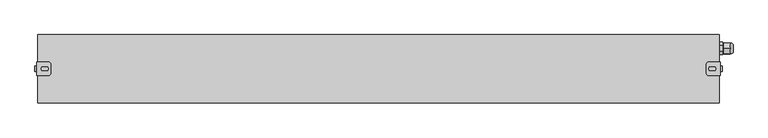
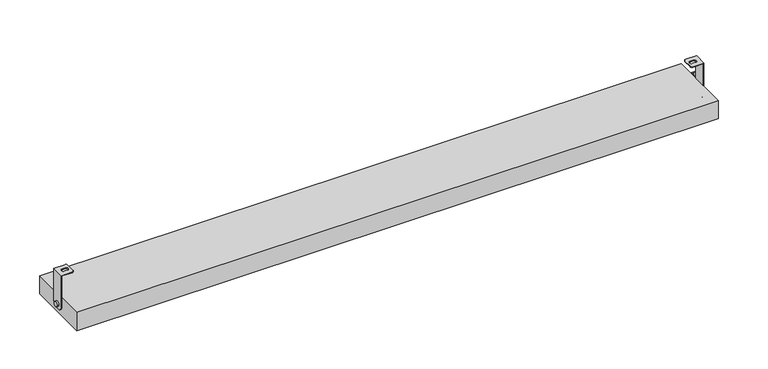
"""IFC4 building model written with IfcOpenShell, lengths in millimetres: light fixture geometry, GENILED_Светильник светодиодный_Titan Advanced : Titan Advanced 1000x100x30 40Вт IP66 Матовое закаленное стекло."""

import ifcopenshell
import ifcopenshell.guid

model = None  # the IFC model being written
_history = None  # IfcOwnerHistory: only IFC2X3 demands one
_inside = {}  # id of a spatial element -> (the spatial element, [elements in it])
_under = {}  # id of a project, library or spatial element -> (it, [spatial elements below it])
_declared = {}  # id of a project -> (the project, [libraries it declares])
_typed = {}  # id of a type object -> (the type object, [elements of that type])
_made_of = {}  # id of a material, layer set ... -> (it, [elements and type objects made of it])


def new_model(schema):
    """Start an empty IFC model of exactly this schema.

    Asked for "IFC4X3", IfcOpenShell would pick the latest addendum, in which some entities
    have other attributes; the version numbers below select the first issue.
    IFC2X3 requires an IfcOwnerHistory on every rooted entity: one is made here for all.
    """
    global model, _history
    if schema == "IFC4X3":
        model = ifcopenshell.file(schema_version=(4, 3, 0, 0))
    else:
        model = ifcopenshell.file(schema=schema)
    _inside.clear()
    _under.clear()
    _declared.clear()
    _typed.clear()
    _made_of.clear()
    _history = None
    if model.schema == "IFC2X3":
        org = make("IfcOrganization", Name="unknown")
        user = make(
            "IfcPersonAndOrganization",
            ThePerson=make("IfcPerson", FamilyName="unknown"),
            TheOrganization=org,
        )
        app = make(
            "IfcApplication",
            ApplicationDeveloper=org,
            Version="unknown",
            ApplicationFullName="unknown",
            ApplicationIdentifier="unknown",
        )
        _history = make(
            "IfcOwnerHistory",
            OwningUser=user,
            OwningApplication=app,
            ChangeAction="ADDED",
            CreationDate=0,
        )
    return model


def make(cls, **values):
    """One entity of the class cls with the attributes given. An attribute that is None is left unset."""
    return model.create_entity(
        cls, **{name: value for name, value in values.items() if value is not None}
    )


def rooted(cls, **values):
    """An entity with a GlobalId (a new one), such as an element, a storey or a relation."""
    return make(cls, GlobalId=ifcopenshell.guid.new(), OwnerHistory=_history, **values)


def si_unit(unit_type, name, prefix=None):
    """IfcSIUnit, for example si_unit("LENGTHUNIT", "METRE", prefix="MILLI")."""
    return make("IfcSIUnit", UnitType=unit_type, Prefix=prefix, Name=name)


def assignment(units):
    """IfcUnitAssignment: the units of a project."""
    return None if units is None else make("IfcUnitAssignment", Units=units)


def point(xyz):
    """IfcCartesianPoint."""
    return None if xyz is None else make("IfcCartesianPoint", Coordinates=xyz)


def direction(xyz):
    """IfcDirection."""
    return None if xyz is None else make("IfcDirection", DirectionRatios=xyz)


def frame(location, z_axis=None, x_axis=None):
    """IfcAxis2Placement3D, a coordinate frame: its origin and axes. An axis left out is left unset."""
    return make(
        "IfcAxis2Placement3D",
        Location=point(location),
        Axis=direction(z_axis),
        RefDirection=direction(x_axis),
    )


def frame_2d(location, x_axis=None):
    """IfcAxis2Placement2D, a coordinate frame in the plane: its origin and x axis."""
    return make(
        "IfcAxis2Placement2D", Location=point(location), RefDirection=direction(x_axis)
    )


def origin():
    """The frame at (0, 0, 0) with its axes left unset."""
    return frame((0.0, 0.0, 0.0))


def origin_with_axes():
    """The frame at (0, 0, 0) with the z axis (0, 0, 1) and the x axis (1, 0, 0) written out."""
    return frame((0.0, 0.0, 0.0), z_axis=(0.0, 0.0, 1.0), x_axis=(1.0, 0.0, 0.0))


def place(relative_to, where):
    """IfcLocalPlacement: puts the frame where relative to a parent placement (None: the world)."""
    return make(
        "IfcLocalPlacement", PlacementRelTo=relative_to, RelativePlacement=where
    )


def context(
    kind, dimensions, precision=None, world=None, true_north=None, identifier=None
):
    """IfcGeometricRepresentationContext, for example the 3D "Model" context."""
    return make(
        "IfcGeometricRepresentationContext",
        ContextIdentifier=identifier,
        ContextType=kind,
        CoordinateSpaceDimension=dimensions,
        Precision=precision,
        WorldCoordinateSystem=world,
        TrueNorth=true_north,
    )


def project(units=None, contexts=None):
    """IfcProject with its units and contexts."""
    return rooted(
        "IfcProject",
        Name="project",
        RepresentationContexts=contexts,
        UnitsInContext=assignment(units),
    )


def spatial(cls, under=None, at=None, **own):
    """A site, building, storey or space (cls), placed at a placement, below another one or the project."""
    s = rooted(cls, ObjectPlacement=at, **own)
    if under is not None:
        _under.setdefault(under.id(), (under, []))[1].append(s)
    return s


def polyline(points):
    """IfcPolyline through the points."""
    return make("IfcPolyline", Points=[point(p) for p in points])


def circle_curve(where, radius):
    """IfcCircle in the frame where."""
    return make("IfcCircle", Position=where, Radius=radius)


def ellipse_curve(where, semi_axis1, semi_axis2):
    """IfcEllipse in the frame where."""
    return make(
        "IfcEllipse", Position=where, SemiAxis1=semi_axis1, SemiAxis2=semi_axis2
    )


def trimmed(basis, trim1, trim2, sense, master):
    """IfcTrimmedCurve: the piece of a basis curve between two trims."""
    return make(
        "IfcTrimmedCurve",
        BasisCurve=basis,
        Trim1=trim1,
        Trim2=trim2,
        SenseAgreement=sense,
        MasterRepresentation=master,
    )


def segment(curve, same_sense, transition):
    """IfcCompositeCurveSegment."""
    return make(
        "IfcCompositeCurveSegment",
        Transition=transition,
        SameSense=same_sense,
        ParentCurve=curve,
    )


def composite_curve(segments, self_intersect=None):
    """IfcCompositeCurve: segments joined end to end."""
    return make("IfcCompositeCurve", Segments=segments, SelfIntersect=self_intersect)


def outline(outer, holes=None, kind="AREA"):
    """IfcArbitraryClosedProfileDef: a profile drawn as a closed curve; with holes, ...WithVoids."""
    if holes is None:
        return make("IfcArbitraryClosedProfileDef", ProfileType=kind, OuterCurve=outer)
    return make(
        "IfcArbitraryProfileDefWithVoids",
        ProfileType=kind,
        OuterCurve=outer,
        InnerCurves=holes,
    )


def extrude(swept, where, along, depth):
    """IfcExtrudedAreaSolid: the profile swept, set in the frame where, extruded along a direction by depth."""
    return make(
        "IfcExtrudedAreaSolid",
        SweptArea=swept,
        Position=where,
        ExtrudedDirection=direction(along),
        Depth=depth,
    )


def shape(context_of_items, identifier, shape_type, items):
    """IfcShapeRepresentation: the items that make up one representation, for example the "Body"."""
    return make(
        "IfcShapeRepresentation",
        ContextOfItems=context_of_items,
        RepresentationIdentifier=identifier,
        RepresentationType=shape_type,
        Items=items,
    )


def source(mapping_origin, context_of_items, identifier, shape_type, items):
    """IfcRepresentationMap: a shape defined once, which mapped items show again and again."""
    return make(
        "IfcRepresentationMap",
        MappingOrigin=mapping_origin,
        MappedRepresentation=shape(context_of_items, identifier, shape_type, items),
    )


def transform(
    local_origin,
    x_axis=None,
    y_axis=None,
    z_axis=None,
    scale=None,
    scale2=None,
    scale3=None,
    uniform=True,
):
    """IfcCartesianTransformationOperator3D, or its non-uniform kind. x_axis, y_axis, z_axis: its Axis1, 2, 3."""
    if uniform:
        return make(
            "IfcCartesianTransformationOperator3D",
            Axis1=direction(x_axis),
            Axis2=direction(y_axis),
            LocalOrigin=point(local_origin),
            Scale=scale,
            Axis3=direction(z_axis),
        )
    return make(
        "IfcCartesianTransformationOperator3DnonUniform",
        Axis1=direction(x_axis),
        Axis2=direction(y_axis),
        LocalOrigin=point(local_origin),
        Scale=scale,
        Axis3=direction(z_axis),
        Scale2=scale2,
        Scale3=scale3,
    )


def mapped(mapping_source, mapping_target):
    """IfcMappedItem: shows the shape of a source again, moved by a transform."""
    return make(
        "IfcMappedItem", MappingSource=mapping_source, MappingTarget=mapping_target
    )


def made_of(thing, what):
    """Note that an element or type object is made of a material, layer set ...; save() writes the relation."""
    if what is not None:
        _made_of.setdefault(what.id(), (what, []))[1].append(thing)
    return thing


def element(
    cls,
    number,
    at=None,
    inside=None,
    cuts=None,
    type_object=None,
    material=None,
    context=None,
    identifier="Body",
    shape_type=None,
    held_by="IfcProductDefinitionShape",
    body=None,
    shapes=None,
    **own,
):
    """One element of the class cls, such as IfcWall. Its Tag is "e" and its number.

    at: its placement. inside: the storey or other place that contains it. cuts: it is an
    opening in that element (IfcRelVoidsElement). A single representation is given by context,
    identifier, shape_type and body (its items); several are given by shapes. held_by: the class
    of the entity that holds the representations. save() writes the other relations.
    """
    e = rooted(cls, Tag="e%d" % number, ObjectPlacement=at, **own)
    if body is not None:
        shapes = [shape(context, identifier, shape_type, body)]
    if shapes is not None:
        e.Representation = make(held_by, Representations=shapes)
    if inside is not None:
        _inside.setdefault(inside.id(), (inside, []))[1].append(e)
    if cuts is not None:
        rooted(
            "IfcRelVoidsElement", RelatingBuildingElement=cuts, RelatedOpeningElement=e
        )
    if type_object is not None:
        _typed.setdefault(type_object.id(), (type_object, []))[1].append(e)
    return made_of(e, material)


def aggregate(whole, parts):
    """IfcRelAggregates: a whole, such as a stair, and the parts it consists of."""
    return rooted("IfcRelAggregates", RelatingObject=whole, RelatedObjects=parts)


def save(model, path):
    """Write the relations noted so far, then the file.

    IfcRelAggregates (storeys below a building ...), IfcRelContainedInSpatialStructure (elements
    in a storey), IfcRelDefinesByType, IfcRelAssociatesMaterial and IfcRelDeclares: one each for
    every whole, place, type object, material and project.
    """
    for whole, parts in _under.values():
        aggregate(whole, parts)
    for where, things in _inside.values():
        rooted(
            "IfcRelContainedInSpatialStructure",
            RelatedElements=things,
            RelatingStructure=where,
        )
    for kind, things in _typed.values():
        rooted("IfcRelDefinesByType", RelatedObjects=things, RelatingType=kind)
    for what, things in _made_of.values():
        rooted("IfcRelAssociatesMaterial", RelatedObjects=things, RelatingMaterial=what)
    for by, libraries in _declared.values():
        rooted("IfcRelDeclares", RelatingContext=by, RelatedDefinitions=libraries)
    model.write(path)


def plane_surface(at):
    """IfcPlane: the flat surface through the origin of the frame at, square to its z axis."""
    return make("IfcPlane", Position=at)


def cylinder_surface(at, radius):
    """IfcCylindricalSurface: all points at the distance radius from the z axis of the frame at."""
    return make("IfcCylindricalSurface", Position=at, Radius=radius)


def revolved_surface(curve, axis_point, axis_direction):
    """IfcSurfaceOfRevolution: the curve turned about the line through axis_point along axis_direction."""
    return make(
        "IfcSurfaceOfRevolution",
        SweptCurve=make("IfcArbitraryOpenProfileDef", ProfileType="CURVE", Curve=curve),
        AxisPosition=make("IfcAxis1Placement", Location=point(axis_point), Axis=direction(axis_direction)),
    )


def advanced_brep(points, edges, surfaces, faces):
    """IfcAdvancedBrep: a solid bounded by faces that lie on surfaces and meet in shared edges.

    An edge is (start, end): straight between two places in points (the first is 0);
    or (start, end, curve); or (start, end, curve, False) where it runs against its curve.
    A face is (place in surfaces, loops), or (place, loops, False) where it looks against
    its surface's normal. A loop lists edges by number (the first is 1), with a minus sign
    where the edge is run from its end to its start. The first loop is the outer one.
    """
    corners = [point(p) for p in points]
    vertices = [make("IfcVertexPoint", VertexGeometry=c) for c in corners]
    made = []
    for start, end, *more in edges:
        made.append(
            make(
                "IfcEdgeCurve",
                EdgeStart=vertices[start],
                EdgeEnd=vertices[end],
                EdgeGeometry=more[0] if more else make("IfcPolyline", Points=[corners[start], corners[end]]),
                SameSense=more[1] if len(more) > 1 else True,
            )
        )
    hull = []
    for where, loops, *sense in faces:
        bounds = []
        for j, loop in enumerate(loops):
            ring = [make("IfcOrientedEdge", EdgeElement=made[abs(k) - 1], Orientation=k > 0) for k in loop]
            bounds.append(
                make(
                    "IfcFaceOuterBound" if j == 0 else "IfcFaceBound",
                    Bound=make("IfcEdgeLoop", EdgeList=ring),
                    Orientation=True,
                )
            )
        hull.append(make("IfcAdvancedFace", Bounds=bounds, FaceSurface=surfaces[where], SameSense=sense[0] if sense else True))
    return make("IfcAdvancedBrep", Outer=make("IfcClosedShell", CfsFaces=hull))


def light_fixture_01780e7a(model_context):
    return source(origin(), model_context, "Body", "SolidModel", [
        advanced_brep(
        [(-484.0, 10.0, 67.0), (-501.0, 10.0, 67.0), (-501.0, -10.0, 67.0), (-484.0, -10.0, 67.0), (-481.0, -7.0, 67.0), (-481.0, 7.0, 67.0), (-487.0, 2.75, 67.0), (-487.0, -2.75, 67.0), (-492.0, -2.75, 67.0), (-492.0, 2.75, 67.0), (-484.0, -10.0, 66.0), (-500.0, -10.0, 66.0), (-500.0, 10.0, 66.0), (-484.0, 10.0, 66.0), (-481.0, 7.0, 66.0), (-481.0, -7.0, 66.0), (-487.0, 2.75, 66.0), (-492.0, 2.75, 66.0), (-492.0, -2.75, 66.0), (-487.0, -2.75, 66.0), (-501.0, -10.0, 15.0), (-500.0, -10.0, 15.0), (-501.0, 10.0, 15.0), (-501.0, 2.0, 7.0), (-501.0, -2.0, 7.0), (-501.0, 4.0, 15.0), (-501.0, -4.0, 15.0), (-500.0, 10.0, 15.0), (-500.0, -2.0, 7.0), (-500.0, 2.0, 7.0), (-504.0, -4.0, 15.0), (-504.0, 4.0, 15.0)],
        [
            (0, 1),
            (1, 2),
            (2, 3),
            (3, 4, circle_curve(frame((-484.0, -7.0, 67.0), z_axis=(0.0, 0.0, 1.0), x_axis=(-1.0, 0.0, 0.0)), 3.0)),
            (4, 5),
            (5, 0, circle_curve(frame((-484.0, 7.0, 67.0), z_axis=(0.0, 0.0, 1.0), x_axis=(-1.0, 0.0, 0.0)), 3.0)),
            (6, 7, circle_curve(frame((-487.0, 0.0, 67.0), z_axis=(0.0, 0.0, -1.0), x_axis=(-1.0, 0.0, 0.0)), 2.75)),
            (7, 8),
            (8, 9, circle_curve(frame((-492.0, 0.0, 67.0), z_axis=(0.0, 0.0, -1.0), x_axis=(-1.0, 0.0, 0.0)), 2.75)),
            (9, 6),
            (10, 11),
            (11, 12),
            (12, 13),
            (13, 14, circle_curve(frame((-484.0, 7.0, 66.0), z_axis=(0.0, 0.0, -1.0), x_axis=(-1.0, 0.0, 0.0)), 3.0)),
            (14, 15),
            (15, 10, circle_curve(frame((-484.0, -7.0, 66.0), z_axis=(0.0, 0.0, -1.0), x_axis=(-1.0, 0.0, 0.0)), 3.0)),
            (16, 17),
            (17, 18, circle_curve(frame((-492.0, 0.0, 66.0), z_axis=(0.0, 0.0, 1.0), x_axis=(-1.0, 0.0, 0.0)), 2.75)),
            (18, 19),
            (19, 16, circle_curve(frame((-487.0, 0.0, 66.0), z_axis=(0.0, 0.0, 1.0), x_axis=(-1.0, 0.0, 0.0)), 2.75)),
            (5, 14),
            (13, 0),
            (4, 15),
            (3, 10),
            (2, 20),
            (20, 21),
            (21, 11),
            (1, 22),
            (22, 23, circle_curve(frame((-501.0, 2.0, 15.0), z_axis=(-1.0, 0.0, 0.0), x_axis=(0.0, 1.0, 0.0)), 8.0)),
            (23, 24),
            (24, 20, circle_curve(frame((-501.0, -2.0, 15.0), z_axis=(-1.0, 0.0, 0.0), x_axis=(0.0, 1.0, 0.0)), 8.0)),
            (25, 26, circle_curve(frame((-501.0, 0.0, 15.0), z_axis=(1.0, 0.0, 0.0), x_axis=(0.0, 1.0, 0.0)), 4.0)),
            (26, 25, circle_curve(frame((-501.0, 0.0, 15.0), z_axis=(1.0, 0.0, 0.0), x_axis=(0.0, 1.0, 0.0)), 4.0)),
            (12, 27),
            (27, 22),
            (9, 17),
            (16, 6),
            (8, 18),
            (7, 19),
            (21, 28, circle_curve(frame((-500.0, -2.0, 15.0), z_axis=(1.0, 0.0, 0.0), x_axis=(0.0, 1.0, 0.0)), 8.0)),
            (28, 29),
            (29, 27, circle_curve(frame((-500.0, 2.0, 15.0), z_axis=(1.0, 0.0, 0.0), x_axis=(0.0, 1.0, 0.0)), 8.0)),
            (24, 28),
            (23, 29),
            (30, 31, circle_curve(frame((-504.0, 0.0, 15.0), z_axis=(-1.0, 0.0, 0.0), x_axis=(0.0, 1.0, 0.0)), 4.0)),
            (31, 30, circle_curve(frame((-504.0, 0.0, 15.0), z_axis=(-1.0, 0.0, 0.0), x_axis=(0.0, 1.0, 0.0)), 4.0)),
            (31, 25),
            (26, 30),
        ],
        [
            plane_surface(frame((-487.0, 7.0, 67.0), z_axis=(0.0, 0.0, 1.0), x_axis=(0.0, 1.0, 0.0))),
            plane_surface(frame((-487.0, 7.0, 66.0), z_axis=(0.0, 0.0, -1.0), x_axis=(0.0, -1.0, 0.0))),
            cylinder_surface(frame((-484.0, 7.0, 66.0), z_axis=(0.0, 0.0, 1.0), x_axis=(-1.0, 0.0, 0.0)), 3.0),
            plane_surface(frame((-481.0, 7.0, 67.0), z_axis=(1.0, 0.0, 0.0), x_axis=(0.0, 0.0, -1.0))),
            cylinder_surface(frame((-484.0, -7.0, 66.0), z_axis=(0.0, 0.0, 1.0), x_axis=(-1.0, 0.0, 0.0)), 3.0),
            plane_surface(frame((-484.0, -10.0, 67.0), z_axis=(0.0, -1.0, 0.0), x_axis=(0.0, 0.0, -1.0))),
            plane_surface(frame((-501.0, -10.0, 67.0), z_axis=(-1.0, 0.0, 0.0), x_axis=(0.0, 0.0, -1.0))),
            plane_surface(frame((-501.0, 10.0, 67.0), z_axis=(0.0, 1.0, 0.0), x_axis=(0.0, 0.0, -1.0))),
            plane_surface(frame((-487.0, 2.75, 67.0), z_axis=(0.0, -1.0, 0.0), x_axis=(0.0, 0.0, -1.0))),
            revolved_surface(polyline([(-494.75, 0.0, 66.0), (-494.75, 0.0, 67.0)]), (-492.0, 0.0, 15.0), (0.0, 0.0, -1.0)),
            plane_surface(frame((-492.0, -2.75, 67.0), z_axis=(0.0, 1.0, 0.0), x_axis=(0.0, 0.0, -1.0))),
            revolved_surface(polyline([(-489.75, 0.0, 66.0), (-489.75, 0.0, 67.0)]), (-487.0, 0.0, 15.0), (0.0, 0.0, -1.0)),
            plane_surface(frame((-500.0, -10.0, 67.0), z_axis=(1.0, 0.0, 0.0), x_axis=(0.0, 1.0, 0.0))),
            cylinder_surface(frame((-500.0, -2.0, 15.0), z_axis=(-1.0, 0.0, 0.0), x_axis=(0.0, 1.0, 0.0)), 8.0),
            plane_surface(frame((-501.0, -2.0, 7.0), z_axis=(0.0, 0.0, -1.0), x_axis=(1.0, 0.0, 0.0))),
            cylinder_surface(frame((-500.0, 2.0, 15.0), z_axis=(-1.0, 0.0, 0.0), x_axis=(0.0, 1.0, 0.0)), 8.0),
            plane_surface(frame((-504.0, 4.0, 15.0), z_axis=(-1.0, 0.0, 0.0), x_axis=(0.0, 0.0, 1.0))),
            cylinder_surface(frame((-501.0, 0.0, 15.0), z_axis=(-1.0, 0.0, 0.0), x_axis=(0.0, 1.0, 0.0)), 4.0),
        ],
        [
            (0, [[1, 2, 3, 4, 5, 6], [7, 8, 9, 10]]),
            (1, [[11, 12, 13, 14, 15, 16], [17, 18, 19, 20]]),
            (2, [[21, -14, 22, -6]]),
            (3, [[23, -15, -21, -5]]),
            (4, [[24, -16, -23, -4]]),
            (5, [[-3, 25, 26, 27, -11, -24]]),
            (6, [[28, 29, 30, 31, -25, -2], [32, 33]]),
            (7, [[-13, 34, 35, -28, -1, -22]]),
            (8, [[36, -17, 37, -10]]),
            (9, [[38, -18, -36, -9]]),
            (10, [[39, -19, -38, -8]]),
            (11, [[-37, -20, -39, -7]]),
            (12, [[-34, -12, -27, 40, 41, 42]]),
            (13, [[43, -40, -26, -31]]),
            (14, [[44, -41, -43, -30]]),
            (15, [[-35, -42, -44, -29]]),
            (16, [[45, 46]]),
            (17, [[47, -33, 48, -46]]),
            (17, [[-48, -32, -47, -45]]),
        ],
    ),
        advanced_brep(
        [(484.0, 10.0, 67.0), (481.0, 7.0, 67.0), (481.0, -7.0, 67.0), (484.0, -10.0, 67.0), (501.0, -10.0, 67.0), (501.0, 10.0, 67.0), (487.0, 2.75, 67.0), (492.0, 2.75, 67.0), (492.0, -2.75, 67.0), (487.0, -2.75, 67.0), (484.0, -10.0, 66.0), (481.0, -7.0, 66.0), (481.0, 7.0, 66.0), (484.0, 10.0, 66.0), (500.0, 10.0, 66.0), (500.0, -10.0, 66.0), (487.0, 2.75, 66.0), (487.0, -2.75, 66.0), (492.0, -2.75, 66.0), (492.0, 2.75, 66.0), (500.0, -10.0, 15.0), (501.0, -10.0, 15.0), (501.0, -2.0, 7.0), (501.0, 2.0, 7.0), (501.0, 10.0, 15.0), (501.0, 4.0, 15.0), (501.0, -4.0, 15.0), (500.0, 10.0, 15.0), (500.0, 2.0, 7.0), (500.0, -2.0, 7.0), (504.0, -4.0, 15.0), (504.0, 4.0, 15.0)],
        [
            (0, 1, circle_curve(frame((484.0, 7.0, 67.0), z_axis=(0.0, 0.0, 1.0), x_axis=(1.0, 0.0, 0.0)), 3.0)),
            (1, 2),
            (2, 3, circle_curve(frame((484.0, -7.0, 67.0), z_axis=(0.0, 0.0, 1.0), x_axis=(1.0, 0.0, 0.0)), 3.0)),
            (3, 4),
            (4, 5),
            (5, 0),
            (6, 7),
            (7, 8, circle_curve(frame((492.0, 0.0, 67.0), z_axis=(0.0, 0.0, -1.0), x_axis=(1.0, 0.0, 0.0)), 2.75)),
            (8, 9),
            (9, 6, circle_curve(frame((487.0, 0.0, 67.0), z_axis=(0.0, 0.0, -1.0), x_axis=(1.0, 0.0, 0.0)), 2.75)),
            (10, 11, circle_curve(frame((484.0, -7.0, 66.0), z_axis=(0.0, 0.0, -1.0), x_axis=(1.0, 0.0, 0.0)), 3.0)),
            (11, 12),
            (12, 13, circle_curve(frame((484.0, 7.0, 66.0), z_axis=(0.0, 0.0, -1.0), x_axis=(1.0, 0.0, 0.0)), 3.0)),
            (13, 14),
            (14, 15),
            (15, 10),
            (16, 17, circle_curve(frame((487.0, 0.0, 66.0), z_axis=(0.0, 0.0, 1.0), x_axis=(1.0, 0.0, 0.0)), 2.75)),
            (17, 18),
            (18, 19, circle_curve(frame((492.0, 0.0, 66.0), z_axis=(0.0, 0.0, 1.0), x_axis=(1.0, 0.0, 0.0)), 2.75)),
            (19, 16),
            (0, 13),
            (12, 1),
            (11, 2),
            (10, 3),
            (15, 20),
            (20, 21),
            (21, 4),
            (21, 22, circle_curve(frame((501.0, -2.0, 15.0), z_axis=(1.0, 0.0, 0.0), x_axis=(0.0, 1.0, 0.0)), 8.0)),
            (22, 23),
            (23, 24, circle_curve(frame((501.0, 2.0, 15.0), z_axis=(1.0, 0.0, 0.0), x_axis=(0.0, 1.0, 0.0)), 8.0)),
            (24, 5),
            (25, 26, circle_curve(frame((501.0, 0.0, 15.0), z_axis=(-1.0, 0.0, 0.0), x_axis=(0.0, 1.0, 0.0)), 4.0)),
            (26, 25, circle_curve(frame((501.0, 0.0, 15.0), z_axis=(-1.0, 0.0, 0.0), x_axis=(0.0, 1.0, 0.0)), 4.0)),
            (24, 27),
            (27, 14),
            (6, 16),
            (19, 7),
            (18, 8),
            (17, 9),
            (27, 28, circle_curve(frame((500.0, 2.0, 15.0), z_axis=(-1.0, 0.0, 0.0), x_axis=(0.0, 1.0, 0.0)), 8.0)),
            (28, 29),
            (29, 20, circle_curve(frame((500.0, -2.0, 15.0), z_axis=(-1.0, 0.0, 0.0), x_axis=(0.0, 1.0, 0.0)), 8.0)),
            (29, 22),
            (28, 23),
            (30, 31, circle_curve(frame((504.0, 0.0, 15.0), z_axis=(1.0, 0.0, 0.0), x_axis=(0.0, 1.0, 0.0)), 4.0)),
            (31, 30, circle_curve(frame((504.0, 0.0, 15.0), z_axis=(1.0, 0.0, 0.0), x_axis=(0.0, 1.0, 0.0)), 4.0)),
            (30, 26),
            (25, 31),
        ],
        [
            plane_surface(frame((487.0, 7.0, 67.0), z_axis=(0.0, 0.0, 1.0), x_axis=(0.0, 1.0, 0.0))),
            plane_surface(frame((487.0, 7.0, 66.0), z_axis=(0.0, 0.0, -1.0), x_axis=(0.0, -1.0, 0.0))),
            cylinder_surface(frame((484.0, 7.0, 66.0), z_axis=(0.0, 0.0, 1.0), x_axis=(1.0, 0.0, 0.0)), 3.0),
            plane_surface(frame((481.0, 7.0, 67.0), z_axis=(-1.0, 0.0, 0.0), x_axis=(0.0, 0.0, -1.0))),
            cylinder_surface(frame((484.0, -7.0, 66.0), z_axis=(0.0, 0.0, 1.0), x_axis=(1.0, 0.0, 0.0)), 3.0),
            plane_surface(frame((484.0, -10.0, 67.0), z_axis=(0.0, -1.0, 0.0), x_axis=(0.0, 0.0, -1.0))),
            plane_surface(frame((501.0, -10.0, 67.0), z_axis=(1.0, 0.0, 0.0), x_axis=(0.0, 0.0, -1.0))),
            plane_surface(frame((501.0, 10.0, 67.0), z_axis=(0.0, 1.0, 0.0), x_axis=(0.0, 0.0, -1.0))),
            plane_surface(frame((487.0, 2.75, 67.0), z_axis=(0.0, -1.0, 0.0), x_axis=(0.0, 0.0, -1.0))),
            revolved_surface(polyline([(494.75, 0.0, 66.0), (494.75, 0.0, 67.0)]), (492.0, 0.0, 15.0), (0.0, 0.0, -1.0)),
            plane_surface(frame((492.0, -2.75, 67.0), z_axis=(0.0, 1.0, 0.0), x_axis=(0.0, 0.0, -1.0))),
            revolved_surface(polyline([(489.75, 0.0, 66.0), (489.75, 0.0, 67.0)]), (487.0, 0.0, 15.0), (0.0, 0.0, -1.0)),
            plane_surface(frame((500.0, -10.0, 67.0), z_axis=(-1.0, 0.0, 0.0), x_axis=(0.0, 1.0, 0.0))),
            cylinder_surface(frame((500.0, -2.0, 15.0), z_axis=(1.0, 0.0, 0.0), x_axis=(0.0, 1.0, 0.0)), 8.0),
            plane_surface(frame((501.0, -2.0, 7.0), z_axis=(0.0, 0.0, -1.0), x_axis=(-1.0, 0.0, 0.0))),
            cylinder_surface(frame((500.0, 2.0, 15.0), z_axis=(1.0, 0.0, 0.0), x_axis=(0.0, 1.0, 0.0)), 8.0),
            plane_surface(frame((504.0, 4.0, 15.0), z_axis=(1.0, 0.0, 0.0), x_axis=(0.0, 0.0, 1.0))),
            cylinder_surface(frame((501.0, 0.0, 15.0), z_axis=(1.0, 0.0, 0.0), x_axis=(0.0, 1.0, 0.0)), 4.0),
        ],
        [
            (0, [[1, 2, 3, 4, 5, 6], [7, 8, 9, 10]]),
            (1, [[11, 12, 13, 14, 15, 16], [17, 18, 19, 20]]),
            (2, [[-1, 21, -13, 22]]),
            (3, [[-2, -22, -12, 23]]),
            (4, [[-3, -23, -11, 24]]),
            (5, [[-24, -16, 25, 26, 27, -4]]),
            (6, [[-5, -27, 28, 29, 30, 31], [32, 33]]),
            (7, [[-21, -6, -31, 34, 35, -14]]),
            (8, [[-7, 36, -20, 37]]),
            (9, [[-8, -37, -19, 38]]),
            (10, [[-9, -38, -18, 39]]),
            (11, [[-10, -39, -17, -36]]),
            (12, [[40, 41, 42, -25, -15, -35]]),
            (13, [[-28, -26, -42, 43]]),
            (14, [[-29, -43, -41, 44]]),
            (15, [[-30, -44, -40, -34]]),
            (16, [[45, 46]]),
            (17, [[-45, 47, -32, 48]]),
            (17, [[-46, -48, -33, -47]]),
        ],
    ),
        advanced_brep(
        [(520.0120269, 24.15, 15.0), (520.0120269, 35.85, 15.0), (520.0120269, 33.5, 15.0), (520.0120269, 26.5, 15.0), (516.0120269, 22.0, 15.0), (516.0120269, 26.0, 8.0717968), (516.0120269, 34.0, 8.0717968), (516.0120269, 38.0, 15.0), (516.0120269, 34.0, 21.9282032), (516.0120269, 26.0, 21.9282032), (516.0120269, 33.5, 15.0), (516.0120269, 26.5, 15.0), (516.0120269, 22.0, 10.8768944), (516.0120269, 22.4292858, 10.1333496), (516.0120269, 29.5707142, 6.010244), (516.0120269, 30.4292858, 6.010244), (516.0120269, 37.5707142, 10.1333496), (516.0120269, 38.0, 10.8768944), (516.0120269, 38.0, 19.1231056), (516.0120269, 37.5707142, 19.8666504), (516.0120269, 30.4292858, 23.989756), (516.0120269, 29.5707142, 23.989756), (516.0120269, 22.4292858, 19.8666504), (516.0120269, 22.0, 19.1231056), (506.6, 29.5707142, 6.010244), (506.6, 22.4292858, 10.1333496), (506.6, 22.0, 10.8768944), (506.6, 22.0, 19.1231056), (506.6, 22.4292858, 19.8666504), (506.6, 29.5707142, 23.989756), (506.6, 30.4292858, 23.989756), (506.6, 37.5707142, 19.8666504), (506.6, 38.0, 19.1231056), (506.6, 38.0, 10.8768944), (506.6, 37.5707142, 10.1333496), (506.6, 30.4292858, 6.010244), (506.6, 37.25, 15.0), (506.6, 22.75, 15.0), (504.6, 37.25, 15.0), (504.6, 22.75, 15.0), (504.6, 38.989756, 15.4292858), (504.6, 34.8666504, 22.5707142), (504.6, 34.1231056, 23.0), (504.6, 25.8768944, 23.0), (504.6, 25.1333496, 22.5707142), (504.6, 21.010244, 15.4292858), (504.6, 21.0, 15.0), (504.6, 21.010244, 14.5707142), (504.6, 25.1333496, 7.4292858), (504.6, 25.8768944, 7.0), (504.6, 34.1231056, 7.0), (504.6, 34.8666504, 7.4292858), (504.6, 38.989756, 14.5707142), (504.6, 39.0, 15.0), (500.0, 38.989756, 14.5707142), (500.0, 34.8666504, 7.4292858), (500.0, 34.1231056, 7.0), (500.0, 25.8768944, 7.0), (500.0, 25.1333496, 7.4292858), (500.0, 21.010244, 14.5707142), (500.0, 21.0, 15.0), (500.0, 21.010244, 15.4292858), (500.0, 25.1333496, 22.5707142), (500.0, 25.8768944, 23.0), (500.0, 34.1231056, 23.0), (500.0, 34.8666504, 22.5707142), (500.0, 38.989756, 15.4292858), (500.0, 39.0, 15.0)],
        [
            (0, 1, circle_curve(frame((520.0120269, 30.0, 15.0), z_axis=(1.0, 0.0, 0.0), x_axis=(0.0, 1.0, 0.0)), 5.85)),
            (1, 2),
            (2, 3, circle_curve(frame((520.0120269, 30.0, 15.0), z_axis=(-1.0, 0.0, 0.0), x_axis=(0.0, 1.0, 0.0)), 3.5)),
            (3, 0),
            (1, 0, circle_curve(frame((520.0120269, 30.0, 15.0), z_axis=(1.0, 0.0, 0.0), x_axis=(0.0, 1.0, 0.0)), 5.85)),
            (3, 2, circle_curve(frame((520.0120269, 30.0, 15.0), z_axis=(-1.0, 0.0, 0.0), x_axis=(0.0, 1.0, 0.0)), 3.5)),
            (0, 4, circle_curve(frame((515.6269324, 27.5123851, 15.0), z_axis=(0.0, 0.0, -1.0), x_axis=(0.0, 1.0, 0.0)), 5.5258201)),
            (4, 5, circle_curve(frame((516.0120269, 30.0, 15.0), z_axis=(1.0, 0.0, 0.0), x_axis=(0.0, 1.0, 0.0)), 8.0)),
            (5, 6, circle_curve(frame((516.0120269, 30.0, 15.0), z_axis=(1.0, 0.0, 0.0), x_axis=(0.0, 1.0, 0.0)), 8.0)),
            (6, 7, circle_curve(frame((516.0120269, 30.0, 15.0), z_axis=(1.0, 0.0, 0.0), x_axis=(0.0, 1.0, 0.0)), 8.0)),
            (7, 1, circle_curve(frame((515.6269324, 32.4876149, 15.0), z_axis=(0.0, 0.0, -1.0), x_axis=(0.0, -1.0, 0.0)), 5.5258201)),
            (7, 8, circle_curve(frame((516.0120269, 30.0, 15.0), z_axis=(1.0, 0.0, 0.0), x_axis=(0.0, 1.0, 0.0)), 8.0)),
            (8, 9, circle_curve(frame((516.0120269, 30.0, 15.0), z_axis=(1.0, 0.0, 0.0), x_axis=(0.0, 1.0, 0.0)), 8.0)),
            (9, 4, circle_curve(frame((516.0120269, 30.0, 15.0), z_axis=(1.0, 0.0, 0.0), x_axis=(0.0, 1.0, 0.0)), 8.0)),
            (2, 10),
            (10, 11, circle_curve(frame((516.0120269, 30.0, 15.0), z_axis=(-1.0, 0.0, 0.0), x_axis=(0.0, 1.0, 0.0)), 3.5)),
            (11, 3),
            (11, 10, circle_curve(frame((516.0120269, 30.0, 15.0), z_axis=(-1.0, 0.0, 0.0), x_axis=(0.0, 1.0, 0.0)), 3.5)),
            (4, 12),
            (12, 13, circle_curve(frame((516.0120269, 30.0, 15.0), z_axis=(1.0, 0.0, 0.0), x_axis=(0.0, -1.0, 0.0)), 9.0)),
            (13, 5),
            (5, 14),
            (14, 15, circle_curve(frame((516.0120269, 30.0, 15.0), z_axis=(1.0, 0.0, 0.0), x_axis=(0.0, -1.0, 0.0)), 9.0)),
            (15, 6),
            (6, 16),
            (16, 17, circle_curve(frame((516.0120269, 30.0, 15.0), z_axis=(1.0, 0.0, 0.0), x_axis=(0.0, -1.0, 0.0)), 9.0)),
            (17, 7),
            (7, 18),
            (18, 19, circle_curve(frame((516.0120269, 30.0, 15.0), z_axis=(1.0, 0.0, 0.0), x_axis=(0.0, -1.0, 0.0)), 9.0)),
            (19, 8),
            (8, 20),
            (20, 21, circle_curve(frame((516.0120269, 30.0, 15.0), z_axis=(1.0, 0.0, 0.0), x_axis=(0.0, -1.0, 0.0)), 9.0)),
            (21, 9),
            (9, 22),
            (22, 23, circle_curve(frame((516.0120269, 30.0, 15.0), z_axis=(1.0, 0.0, 0.0), x_axis=(0.0, -1.0, 0.0)), 9.0)),
            (23, 4),
            (24, 25),
            (25, 26, circle_curve(frame((506.6, 30.0, 15.0), z_axis=(-1.0, 0.0, 0.0), x_axis=(0.0, -1.0, 0.0)), 9.0)),
            (26, 27),
            (27, 28, circle_curve(frame((506.6, 30.0, 15.0), z_axis=(-1.0, 0.0, 0.0), x_axis=(0.0, -1.0, 0.0)), 9.0)),
            (28, 29),
            (29, 30, circle_curve(frame((506.6, 30.0, 15.0), z_axis=(-1.0, 0.0, 0.0), x_axis=(0.0, -1.0, 0.0)), 9.0)),
            (30, 31),
            (31, 32, circle_curve(frame((506.6, 30.0, 15.0), z_axis=(-1.0, 0.0, 0.0), x_axis=(0.0, -1.0, 0.0)), 9.0)),
            (32, 33),
            (33, 34, circle_curve(frame((506.6, 30.0, 15.0), z_axis=(-1.0, 0.0, 0.0), x_axis=(0.0, -1.0, 0.0)), 9.0)),
            (34, 35),
            (35, 24, circle_curve(frame((506.6, 30.0, 15.0), z_axis=(-1.0, 0.0, 0.0), x_axis=(0.0, -1.0, 0.0)), 9.0)),
            (36, 37, circle_curve(frame((506.6, 30.0, 15.0), z_axis=(1.0, 0.0, 0.0), x_axis=(0.0, -1.0, 0.0)), 7.25)),
            (37, 36, circle_curve(frame((506.6, 30.0, 15.0), z_axis=(1.0, 0.0, 0.0), x_axis=(0.0, -1.0, 0.0)), 7.25)),
            (15, 35),
            (34, 16),
            (17, 33),
            (32, 18),
            (19, 31),
            (30, 20),
            (21, 29),
            (28, 22),
            (23, 27),
            (26, 12),
            (13, 25),
            (24, 14),
            (36, 38),
            (38, 39, circle_curve(frame((504.6, 30.0, 15.0), z_axis=(1.0, 0.0, 0.0), x_axis=(0.0, -1.0, 0.0)), 7.25)),
            (39, 37),
            (39, 38, circle_curve(frame((504.6, 30.0, 15.0), z_axis=(1.0, 0.0, 0.0), x_axis=(0.0, -1.0, 0.0)), 7.25)),
            (40, 41),
            (41, 42, circle_curve(frame((504.6, 30.0, 15.0), z_axis=(1.0, 0.0, 0.0), x_axis=(0.0, -1.0, 0.0)), 9.0)),
            (42, 43),
            (43, 44, circle_curve(frame((504.6, 30.0, 15.0), z_axis=(1.0, 0.0, 0.0), x_axis=(0.0, -1.0, 0.0)), 9.0)),
            (44, 45),
            (45, 46, circle_curve(frame((504.6, 30.0, 15.0), z_axis=(1.0, 0.0, 0.0), x_axis=(0.0, -1.0, 0.0)), 9.0)),
            (46, 47, circle_curve(frame((504.6, 30.0, 15.0), z_axis=(1.0, 0.0, 0.0), x_axis=(0.0, -1.0, 0.0)), 9.0)),
            (47, 48),
            (48, 49, circle_curve(frame((504.6, 30.0, 15.0), z_axis=(1.0, 0.0, 0.0), x_axis=(0.0, -1.0, 0.0)), 9.0)),
            (49, 50),
            (50, 51, circle_curve(frame((504.6, 30.0, 15.0), z_axis=(1.0, 0.0, 0.0), x_axis=(0.0, -1.0, 0.0)), 9.0)),
            (51, 52),
            (52, 53, circle_curve(frame((504.6, 30.0, 15.0), z_axis=(1.0, 0.0, 0.0), x_axis=(0.0, -1.0, 0.0)), 9.0)),
            (53, 40, circle_curve(frame((504.6, 30.0, 15.0), z_axis=(1.0, 0.0, 0.0), x_axis=(0.0, -1.0, 0.0)), 9.0)),
            (54, 55),
            (55, 56, circle_curve(frame((500.0, 30.0, 15.0), z_axis=(-1.0, 0.0, 0.0), x_axis=(0.0, -1.0, 0.0)), 9.0)),
            (56, 57),
            (57, 58, circle_curve(frame((500.0, 30.0, 15.0), z_axis=(-1.0, 0.0, 0.0), x_axis=(0.0, -1.0, 0.0)), 9.0)),
            (58, 59),
            (59, 60, circle_curve(frame((500.0, 30.0, 15.0), z_axis=(-1.0, 0.0, 0.0), x_axis=(0.0, -1.0, 0.0)), 9.0)),
            (60, 61, circle_curve(frame((500.0, 30.0, 15.0), z_axis=(-1.0, 0.0, 0.0), x_axis=(0.0, -1.0, 0.0)), 9.0)),
            (61, 62),
            (62, 63, circle_curve(frame((500.0, 30.0, 15.0), z_axis=(-1.0, 0.0, 0.0), x_axis=(0.0, -1.0, 0.0)), 9.0)),
            (63, 64),
            (64, 65, circle_curve(frame((500.0, 30.0, 15.0), z_axis=(-1.0, 0.0, 0.0), x_axis=(0.0, -1.0, 0.0)), 9.0)),
            (65, 66),
            (66, 67, circle_curve(frame((500.0, 30.0, 15.0), z_axis=(-1.0, 0.0, 0.0), x_axis=(0.0, -1.0, 0.0)), 9.0)),
            (67, 54, circle_curve(frame((500.0, 30.0, 15.0), z_axis=(-1.0, 0.0, 0.0), x_axis=(0.0, -1.0, 0.0)), 9.0)),
            (40, 66),
            (65, 41),
            (42, 64),
            (63, 43),
            (44, 62),
            (61, 45),
            (47, 59),
            (58, 48),
            (49, 57),
            (56, 50),
            (51, 55),
            (54, 52),
            (67, 53),
            (46, 60),
        ],
        [
            plane_surface(frame((520.0120269, 30.0, 15.0), z_axis=(1.0, 0.0, 0.0), x_axis=(0.0, 1.0, 0.0))),
            revolved_surface(trimmed(ellipse_curve(frame((515.6269324, 32.4876149, 15.0), z_axis=(0.0, 0.0, 1.0), x_axis=(0.0, -1.0, 0.0)), 5.5258201, 5.5258201), [point((520.0120269, 35.85, 15.0))], [point((516.0120269, 38.0, 15.0))], True, "CARTESIAN"), (516.0120269, 30.0, 15.0), (-1.0, 0.0, 0.0)),
            revolved_surface(polyline([(516.0120269, 33.5, 15.0), (520.0120269, 33.5, 15.0)]), (516.0120269, 30.0, 15.0), (-1.0, 0.0, 0.0)),
            plane_surface(frame((516.0120269, 30.0, 5.7623957), z_axis=(1.0000000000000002, 0.0, 0.0), x_axis=(0.0, 0.8660254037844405, 0.49999999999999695))),
            plane_surface(frame((506.6, 30.0, 5.7623957), z_axis=(-1.0000000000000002, 0.0, 0.0), x_axis=(0.0, -0.8660254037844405, -0.49999999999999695))),
            plane_surface(frame((516.0120269, 30.0, 5.7623957), z_axis=(0.0, 0.49999999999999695, -0.8660254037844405), x_axis=(-1.0, 0.0, 0.0))),
            plane_surface(frame((516.0120269, 38.0, 10.3811978), z_axis=(0.0, 1.0, 0.0), x_axis=(-1.0, 0.0, 0.0))),
            plane_surface(frame((516.0120269, 38.0, 19.6188022), z_axis=(0.0, 0.5000000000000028, 0.8660254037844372), x_axis=(-1.0, 0.0, 0.0))),
            plane_surface(frame((516.0120269, 30.0, 24.2376043), z_axis=(0.0, -0.49999999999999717, 0.8660254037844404), x_axis=(-1.0, 0.0, 0.0))),
            plane_surface(frame((516.0120269, 22.0, 19.6188022), z_axis=(0.0, -1.0, 0.0), x_axis=(-1.0, 0.0, 0.0))),
            plane_surface(frame((516.0120269, 22.0, 10.3811978), z_axis=(0.0, -0.5000000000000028, -0.8660254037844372), x_axis=(-1.0, 0.0, 0.0))),
            cylinder_surface(frame((504.6, 30.0, 15.0), z_axis=(1.0, 0.0, 0.0), x_axis=(0.0, -1.0, 0.0)), 7.25),
            plane_surface(frame((504.6, 39.2376043, 15.0), z_axis=(1.0, 0.0, 0.0), x_axis=(0.0, -0.5000000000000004, 0.8660254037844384))),
            plane_surface(frame((500.0, 39.2376043, 15.0), z_axis=(-1.0, 0.0, 0.0), x_axis=(0.0, 0.5000000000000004, -0.8660254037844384))),
            plane_surface(frame((504.6, 39.2376043, 15.0), z_axis=(0.0, 0.8660254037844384, 0.5000000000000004), x_axis=(-1.0, 0.0, 0.0))),
            plane_surface(frame((504.6, 34.6188022, 23.0), z_axis=(0.0, 0.0, 1.0), x_axis=(-1.0, 0.0, 0.0))),
            plane_surface(frame((504.6, 25.3811978, 23.0), z_axis=(0.0, -0.866025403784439, 0.49999999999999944), x_axis=(-1.0, 0.0, 0.0))),
            plane_surface(frame((504.6, 20.7623957, 15.0), z_axis=(0.0, -0.8660254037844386, -0.5000000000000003), x_axis=(-1.0, 0.0, 0.0))),
            plane_surface(frame((504.6, 25.3811978, 7.0), z_axis=(0.0, 0.0, -1.0), x_axis=(-1.0, 0.0, 0.0))),
            plane_surface(frame((504.6, 34.6188022, 7.0), z_axis=(0.0, 0.8660254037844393, -0.49999999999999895), x_axis=(-1.0, 0.0, 0.0))),
            cylinder_surface(frame((500.0, 30.0, 15.0), z_axis=(-1.0, 0.0, 0.0), x_axis=(0.0, -1.0, 0.0)), 9.0),
        ],
        [
            (0, [[1, 2, 3, 4]]),
            (0, [[-2, 5, -4, 6]]),
            (1, [[-1, 7, 8, 9, 10, 11]]),
            (1, [[-5, -11, 12, 13, 14, -7]]),
            (2, [[-3, 15, 16, 17]]),
            (2, [[-6, -17, 18, -15]]),
            (3, [[-8, 19, 20, 21]]),
            (3, [[-9, 22, 23, 24]]),
            (3, [[-10, 25, 26, 27]]),
            (3, [[-12, 28, 29, 30]]),
            (3, [[-13, 31, 32, 33]]),
            (3, [[-14, 34, 35, 36]]),
            (3, [[-16, -18]]),
            (4, [[37, 38, 39, 40, 41, 42, 43, 44, 45, 46, 47, 48], [49, 50]]),
            (5, [[-25, -24, 51, -47, 52]]),
            (6, [[-27, 53, -45, 54, -28]]),
            (7, [[-30, 55, -43, 56, -31]]),
            (8, [[-34, -33, 57, -41, 58]]),
            (9, [[-36, 59, -39, 60, -19]]),
            (10, [[-21, 61, -37, 62, -22]]),
            (11, [[63, 64, 65, -49]]),
            (11, [[-63, -50, -65, 66]]),
            (12, [[67, 68, 69, 70, 71, 72, 73, 74, 75, 76, 77, 78, 79, 80], [-64, -66]]),
            (13, [[81, 82, 83, 84, 85, 86, 87, 88, 89, 90, 91, 92, 93, 94]]),
            (14, [[-67, 95, -92, 96]]),
            (15, [[-69, 97, -90, 98]]),
            (16, [[-71, 99, -88, 100]]),
            (17, [[-74, 101, -85, 102]]),
            (18, [[-76, 103, -83, 104]]),
            (19, [[-78, 105, -81, 106]]),
            (20, [[-20, -60, -38, -61]]),
            (20, [[-23, -62, -48, -51]]),
            (20, [[-26, -52, -46, -53]]),
            (20, [[-75, -102, -84, -103]]),
            (20, [[-77, -104, -82, -105]]),
            (20, [[107, -79, -106, -94]]),
            (20, [[108, -86, -101, -73]]),
            (20, [[-29, -54, -44, -55]]),
            (20, [[-32, -56, -42, -57]]),
            (20, [[-35, -58, -40, -59]]),
            (20, [[-68, -96, -91, -97]]),
            (20, [[-70, -98, -89, -99]]),
            (20, [[-107, -93, -95, -80]]),
            (20, [[-108, -72, -100, -87]]),
        ],
    ),
        advanced_brep(
        [(500.0, 50.0, 30.0), (-500.0, 50.0, 30.0), (-500.0, -50.0, 30.0), (500.0, -50.0, 30.0), (500.0, 50.0, 0.0), (500.0, -50.0, 0.0), (-500.0, -50.0, 0.0), (-500.0, 50.0, 0.0), (470.0, 35.0, 0.0), (-470.0, 35.0, 0.0), (-485.0, 20.0, 0.0), (-485.0, -20.0, 0.0), (-470.0, -35.0, 0.0), (470.0, -35.0, 0.0), (485.0, -20.0, 0.0), (485.0, 20.0, 0.0), (485.0, 20.0, 5.0), (470.0, 35.0, 5.0), (485.0, -20.0, 5.0), (470.0, -35.0, 5.0), (-470.0, -35.0, 5.0), (-485.0, -20.0, 5.0), (-485.0, 20.0, 5.0), (-470.0, 35.0, 5.0)],
        [
            (0, 1),
            (1, 2),
            (2, 3),
            (3, 0),
            (4, 5),
            (5, 6),
            (6, 7),
            (7, 4),
            (8, 9),
            (9, 10, circle_curve(frame((-470.0, 20.0, 0.0), z_axis=(0.0, 0.0, 1.0), x_axis=(1.0, 0.0, 0.0)), 15.0)),
            (10, 11),
            (11, 12, circle_curve(frame((-470.0, -20.0, 0.0), z_axis=(0.0, 0.0, 1.0), x_axis=(1.0, 0.0, 0.0)), 15.0)),
            (12, 13),
            (13, 14, circle_curve(frame((470.0, -20.0, 0.0), z_axis=(0.0, 0.0, 1.0), x_axis=(1.0, 0.0, 0.0)), 15.0)),
            (14, 15),
            (15, 8, circle_curve(frame((470.0, 20.0, 0.0), z_axis=(0.0, 0.0, 1.0), x_axis=(1.0, 0.0, 0.0)), 15.0)),
            (0, 4),
            (7, 1),
            (6, 2),
            (5, 3),
            (15, 16),
            (16, 17, circle_curve(frame((470.0, 20.0, 5.0), z_axis=(0.0, 0.0, 1.0), x_axis=(1.0, 0.0, 0.0)), 15.0)),
            (17, 8),
            (14, 18),
            (18, 16),
            (13, 19),
            (19, 18, circle_curve(frame((470.0, -20.0, 5.0), z_axis=(0.0, 0.0, 1.0), x_axis=(1.0, 0.0, 0.0)), 15.0)),
            (12, 20),
            (20, 19),
            (11, 21),
            (21, 20, circle_curve(frame((-470.0, -20.0, 5.0), z_axis=(0.0, 0.0, 1.0), x_axis=(1.0, 0.0, 0.0)), 15.0)),
            (10, 22),
            (22, 21),
            (9, 23),
            (23, 22, circle_curve(frame((-470.0, 20.0, 5.0), z_axis=(0.0, 0.0, 1.0), x_axis=(1.0, 0.0, 0.0)), 15.0)),
            (17, 23),
        ],
        [
            plane_surface(frame((-500.0, 50.0, 30.0), z_axis=(0.0, 0.0, 1.0), x_axis=(-1.0, 0.0, 0.0))),
            plane_surface(frame((-500.0, 50.0, 0.0), z_axis=(0.0, 0.0, -1.0), x_axis=(1.0, 0.0, 0.0))),
            plane_surface(frame((500.0, 50.0, 30.0), z_axis=(0.0, 1.0, 0.0), x_axis=(0.0, 0.0, -1.0))),
            plane_surface(frame((-500.0, 50.0, 30.0), z_axis=(-1.0, 0.0, 0.0), x_axis=(0.0, 0.0, -1.0))),
            plane_surface(frame((-500.0, -50.0, 30.0), z_axis=(0.0, -1.0, 0.0), x_axis=(0.0, 0.0, -1.0))),
            plane_surface(frame((500.0, -50.0, 30.0), z_axis=(1.0, 0.0, 0.0), x_axis=(0.0, 0.0, -1.0))),
            revolved_surface(polyline([(485.0, 20.0, 0.0), (485.0, 20.0, 5.0)]), (470.0, 20.0, 0.0), (0.0, 0.0, -1.0)),
            plane_surface(frame((485.0, 20.0, 30.0), z_axis=(-1.0, 0.0, 0.0), x_axis=(0.0, 0.0, -1.0))),
            revolved_surface(polyline([(485.0, -20.0, 0.0), (485.0, -20.0, 5.0)]), (470.0, -20.0, 0.0), (0.0, 0.0, -1.0)),
            plane_surface(frame((470.0, -35.0, 30.0), z_axis=(0.0, 1.0, 0.0), x_axis=(0.0, 0.0, -1.0))),
            revolved_surface(polyline([(-455.0, -20.0, 0.0), (-455.0, -20.0, 5.0)]), (-470.0, -20.0, 0.0), (0.0, 0.0, -1.0)),
            plane_surface(frame((-485.0, -20.0, 30.0), z_axis=(1.0, 0.0, 0.0), x_axis=(0.0, 0.0, -1.0))),
            revolved_surface(polyline([(-455.0, 20.0, 0.0), (-455.0, 20.0, 5.0)]), (-470.0, 20.0, 0.0), (0.0, 0.0, -1.0)),
            plane_surface(frame((-470.0, 35.0, 30.0), z_axis=(0.0, -1.0, 0.0), x_axis=(0.0, 0.0, -1.0))),
            plane_surface(frame((-470.0, 35.0, 5.0), z_axis=(0.0, 0.0, -1.0), x_axis=(1.0, 0.0, 0.0))),
        ],
        [
            (0, [[1, 2, 3, 4]]),
            (1, [[5, 6, 7, 8], [9, 10, 11, 12, 13, 14, 15, 16]]),
            (2, [[-1, 17, -8, 18]]),
            (3, [[-2, -18, -7, 19]]),
            (4, [[-3, -19, -6, 20]]),
            (5, [[-4, -20, -5, -17]]),
            (6, [[-16, 21, 22, 23]]),
            (7, [[-15, 24, 25, -21]]),
            (8, [[-14, 26, 27, -24]]),
            (9, [[-13, 28, 29, -26]]),
            (10, [[-12, 30, 31, -28]]),
            (11, [[-11, 32, 33, -30]]),
            (12, [[-10, 34, 35, -32]]),
            (13, [[-9, -23, 36, -34]]),
            (14, [[-22, -25, -27, -29, -31, -33, -35, -36]]),
        ],
    ),
        extrude(outline(composite_curve([segment(trimmed(circle_curve(frame_2d((470.0, 20.0)), 15.0), [point((470.0, 35.0))], [point((485.0, 20.0))], False, "CARTESIAN"), True, "CONTINUOUS"), segment(polyline([(485.0, 20.0), (485.0, -20.0)]), True, "CONTINUOUS"), segment(trimmed(circle_curve(frame_2d((470.0, -20.0)), 15.0), [point((485.0, -20.0))], [point((470.0, -35.0))], False, "CARTESIAN"), True, "CONTINUOUS"), segment(polyline([(470.0, -35.0), (-470.0, -35.0)]), True, "CONTINUOUS"), segment(trimmed(circle_curve(frame_2d((-470.0, -20.0)), 15.0), [point((-470.0, -35.0))], [point((-485.0, -20.0))], False, "CARTESIAN"), True, "CONTINUOUS"), segment(polyline([(-485.0, -20.0), (-485.0, 20.0)]), True, "CONTINUOUS"), segment(trimmed(circle_curve(frame_2d((-470.0, 20.0)), 15.0), [point((-485.0, 20.0))], [point((-470.0, 35.0))], False, "CARTESIAN"), True, "CONTINUOUS"), segment(polyline([(-470.0, 35.0), (470.0, 35.0)]), True, "CONTINUOUS")], self_intersect=False)), origin_with_axes(), (0.0, 0.0, 1.0), 5.0),
    ])


if __name__ == "__main__":
    model = new_model("IFC4")
    model_context = context("Model", 3, world=origin())
    ifc_project = project(units=[si_unit("LENGTHUNIT", "METRE", prefix="MILLI")], contexts=[model_context])
    site = spatial("IfcSite", under=ifc_project)
    building = spatial("IfcBuilding", under=site)
    placement = place(None, origin())
    light_fixture_shape = light_fixture_01780e7a(model_context)
    element("IfcLightFixture", 1, ObjectType="GENILED_Светильник светодиодный_Titan Advanced : Titan Advanced 1000x100x30 40Вт IP66 Матовое закаленное стекло", at=placement, inside=building, context=model_context, shape_type="MappedRepresentation", body=[
        mapped(light_fixture_shape, transform((0.0, 0.0, 0.0), x_axis=(1.0, 0.0, 0.0), y_axis=(0.0, 1.0, 0.0), z_axis=(0.0, 0.0, 1.0))),
    ])
    save(model, "model.ifc")
